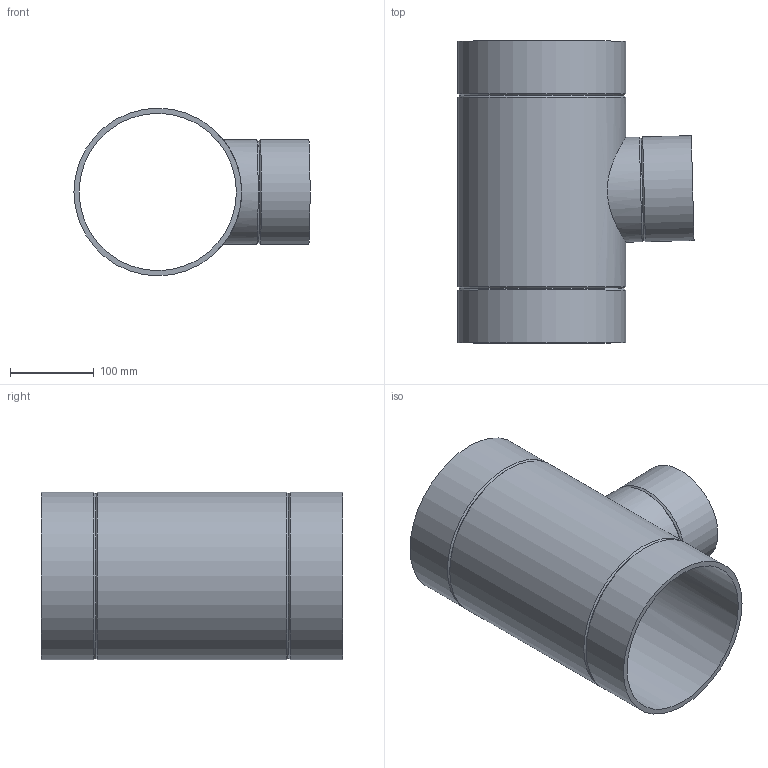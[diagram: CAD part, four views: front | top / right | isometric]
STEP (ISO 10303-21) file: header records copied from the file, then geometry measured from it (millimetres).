
FILE_DESCRIPTION(/* description */ (''),/* implementation_level */ '2;1');
FILE_NAME(/* name */ 'Z:\Geberit\Export\NewStep\370189.stp',/* time_stamp */ '2014-04-02T08:03:58+02:00',/* author */ ('nelson'),/* organization */ (''),/* preprocessor_version */ 'ST-DEVELOPER v15.2',/* originating_system */ 'Autodesk Inventor 2014',/* authorisation */ '');
FILE_SCHEMA (('AUTOMOTIVE_DESIGN { 1 0 10303 214 3 1 1 }'));
Length unit declared in the file: millimetre
Products named in the file (1): 370189
Bounding box: 281.57 x 360 x 200 mm (x, y, z)
Volume: 1449258.7 mm3; surface area: 496671.2 mm2
Topology: 1 solids, 1 shells, 16 faces, 37 edges, 23 vertices
Faces by surface type: cylinder 7, cone 6, plane 3
Full cylindrical faces by diameter (mm): 115.2 x1, 125 x2, 187.6 x1, 200 x3
Entity records: 503 total; most frequent: CARTESIAN_POINT 181, DIRECTION 64, EDGE_LOOP 34, ORIENTED_EDGE 34, AXIS2_PLACEMENT_3D 32, FACE_BOUND 22, VERTEX_POINT 17, EDGE_CURVE 17
